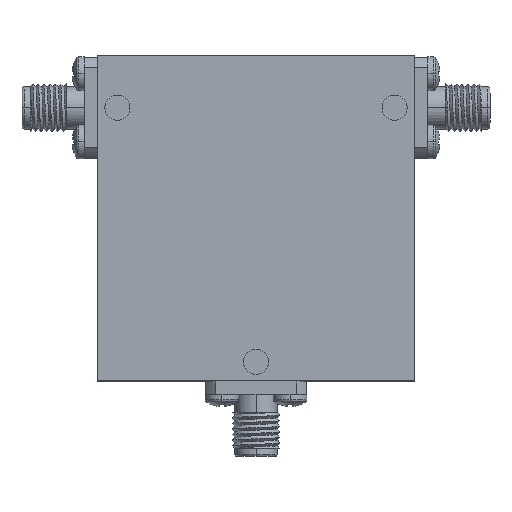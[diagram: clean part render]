
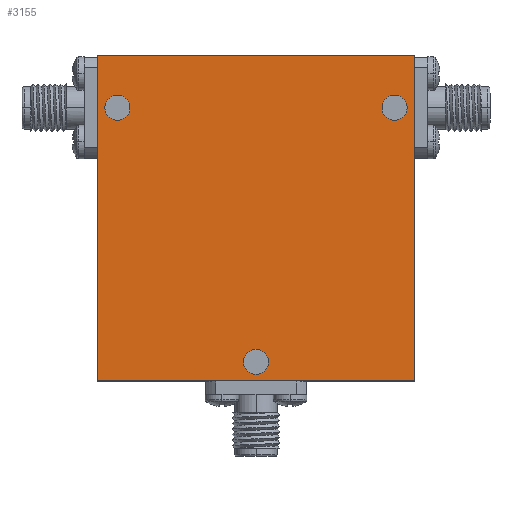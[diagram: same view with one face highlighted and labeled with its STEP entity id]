
A CAD part, top view. The second image highlights one B-rep face of the part: STEP entity #3155.
In plain terms, the highlighted planar face has unit normal (0, 0, 1) as drawn and (0, 0, -1) by its records, which use the part's own axes.
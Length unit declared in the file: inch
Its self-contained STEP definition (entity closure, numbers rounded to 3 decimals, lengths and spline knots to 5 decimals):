
#4 = AXIS2_PLACEMENT_3D ( 'NONE', #1968, #1391, #1098 ) ;
#27 = LINE ( 'NONE', #3624, #510 ) ;
#50 = DIRECTION ( 'NONE',  ( 1., 0., 0. ) ) ;
#116 = DIRECTION ( 'NONE',  ( 0., -1., 0. ) ) ;
#186 = CARTESIAN_POINT ( 'NONE',  ( 0., -0.715, -0.365 ) ) ;
#211 = ORIENTED_EDGE ( 'NONE', *, *, #2300, .T. ) ;
#251 = AXIS2_PLACEMENT_3D ( 'NONE', #2309, #2543, #783 ) ;
#253 = VERTEX_POINT ( 'NONE', #3535 ) ;
#289 = CARTESIAN_POINT ( 'NONE',  ( 0.6275, 0.55, -0.365 ) ) ;
#479 = CARTESIAN_POINT ( 'NONE',  ( -0.69, 0.55, -0.365 ) ) ;
#481 = EDGE_CURVE ( 'NONE', #1420, #3601, #788, .T. ) ;
#510 = VECTOR ( 'NONE', #1904, 39.37008 ) ;
#513 = EDGE_LOOP ( 'NONE', ( #2538, #211 ) ) ;
#561 = VERTEX_POINT ( 'NONE', #1796 ) ;
#693 = CARTESIAN_POINT ( 'NONE',  ( -0.0625, -0.715, -0.365 ) ) ;
#694 = CARTESIAN_POINT ( 'NONE',  ( 0.79, 0.81, -0.365 ) ) ;
#700 = EDGE_LOOP ( 'NONE', ( #1133, #2798 ) ) ;
#783 = DIRECTION ( 'NONE',  ( 1., 0., 0. ) ) ;
#788 = CIRCLE ( 'NONE', #1827, 0.0625 ) ;
#818 = EDGE_CURVE ( 'NONE', #1793, #1984, #2266, .T. ) ;
#830 = AXIS2_PLACEMENT_3D ( 'NONE', #479, #1917, #2784 ) ;
#876 = FACE_BOUND ( 'NONE', #700, .T. ) ;
#892 = VERTEX_POINT ( 'NONE', #2453 ) ;
#911 = EDGE_LOOP ( 'NONE', ( #3486, #3402, #2947, #1580 ) ) ;
#1098 = DIRECTION ( 'NONE',  ( 1., 0., 0. ) ) ;
#1133 = ORIENTED_EDGE ( 'NONE', *, *, #1271, .T. ) ;
#1184 = CARTESIAN_POINT ( 'NONE',  ( -0.79, 0.81, -0.365 ) ) ;
#1205 = VECTOR ( 'NONE', #3604, 39.37008 ) ;
#1271 = EDGE_CURVE ( 'NONE', #3601, #1420, #2504, .T. ) ;
#1386 = DIRECTION ( 'NONE',  ( 0., 0., 1. ) ) ;
#1391 = DIRECTION ( 'NONE',  ( 0., 0., 1. ) ) ;
#1418 = CARTESIAN_POINT ( 'NONE',  ( 0.69, 0.55, -0.365 ) ) ;
#1420 = VERTEX_POINT ( 'NONE', #289 ) ;
#1503 = DIRECTION ( 'NONE',  ( 0., 0., 1. ) ) ;
#1515 = VERTEX_POINT ( 'NONE', #693 ) ;
#1528 = VECTOR ( 'NONE', #50, 39.37008 ) ;
#1580 = ORIENTED_EDGE ( 'NONE', *, *, #2072, .F. ) ;
#1656 = DIRECTION ( 'NONE',  ( 1., 0., 0. ) ) ;
#1711 = DIRECTION ( 'NONE',  ( 0., 0., 1. ) ) ;
#1793 = VERTEX_POINT ( 'NONE', #1971 ) ;
#1796 = CARTESIAN_POINT ( 'NONE',  ( -0.79, 0.81, -0.365 ) ) ;
#1827 = AXIS2_PLACEMENT_3D ( 'NONE', #1418, #1711, #3475 ) ;
#1901 = LINE ( 'NONE', #1184, #1205 ) ;
#1904 = DIRECTION ( 'NONE',  ( 0., 1., 0. ) ) ;
#1917 = DIRECTION ( 'NONE',  ( 0., 0., 1. ) ) ;
#1947 = DIRECTION ( 'NONE',  ( 0., 0., 1. ) ) ;
#1968 = CARTESIAN_POINT ( 'NONE',  ( 0., 0., -0.365 ) ) ;
#1971 = CARTESIAN_POINT ( 'NONE',  ( -0.79, -0.81, -0.365 ) ) ;
#1984 = VERTEX_POINT ( 'NONE', #2978 ) ;
#2072 = EDGE_CURVE ( 'NONE', #2837, #561, #1901, .T. ) ;
#2195 = EDGE_CURVE ( 'NONE', #561, #1793, #3300, .T. ) ;
#2205 = FACE_OUTER_BOUND ( 'NONE', #911, .T. ) ;
#2213 = EDGE_LOOP ( 'NONE', ( #2642, #3690 ) ) ;
#2266 = LINE ( 'NONE', #2435, #1528 ) ;
#2300 = EDGE_CURVE ( 'NONE', #253, #892, #3576, .T. ) ;
#2309 = CARTESIAN_POINT ( 'NONE',  ( 0., -0.715, -0.365 ) ) ;
#2383 = FACE_BOUND ( 'NONE', #513, .T. ) ;
#2390 = CARTESIAN_POINT ( 'NONE',  ( 0.69, 0.55, -0.365 ) ) ;
#2416 = EDGE_CURVE ( 'NONE', #892, #253, #2712, .T. ) ;
#2435 = CARTESIAN_POINT ( 'NONE',  ( -0.79, -0.81, -0.365 ) ) ;
#2453 = CARTESIAN_POINT ( 'NONE',  ( -0.6275, 0.55, -0.365 ) ) ;
#2459 = CARTESIAN_POINT ( 'NONE',  ( 0.7525, 0.55, -0.365 ) ) ;
#2490 = CIRCLE ( 'NONE', #3186, 0.0625 ) ;
#2504 = CIRCLE ( 'NONE', #3759, 0.0625 ) ;
#2519 = EDGE_CURVE ( 'NONE', #3027, #1515, #2796, .T. ) ;
#2538 = ORIENTED_EDGE ( 'NONE', *, *, #2416, .T. ) ;
#2543 = DIRECTION ( 'NONE',  ( 0., 0., 1. ) ) ;
#2642 = ORIENTED_EDGE ( 'NONE', *, *, #2519, .T. ) ;
#2712 = CIRCLE ( 'NONE', #3445, 0.0625 ) ;
#2784 = DIRECTION ( 'NONE',  ( 1., 0., 0. ) ) ;
#2796 = CIRCLE ( 'NONE', #251, 0.0625 ) ;
#2798 = ORIENTED_EDGE ( 'NONE', *, *, #481, .T. ) ;
#2828 = DIRECTION ( 'NONE',  ( 1., 0., 0. ) ) ;
#2837 = VERTEX_POINT ( 'NONE', #694 ) ;
#2915 = DIRECTION ( 'NONE',  ( 1., 0., 0. ) ) ;
#2947 = ORIENTED_EDGE ( 'NONE', *, *, #2195, .F. ) ;
#2978 = CARTESIAN_POINT ( 'NONE',  ( 0.79, -0.81, -0.365 ) ) ;
#3027 = VERTEX_POINT ( 'NONE', #3036 ) ;
#3036 = CARTESIAN_POINT ( 'NONE',  ( 0.0625, -0.715, -0.365 ) ) ;
#3125 = EDGE_CURVE ( 'NONE', #1515, #3027, #2490, .T. ) ;
#3133 = CARTESIAN_POINT ( 'NONE',  ( -0.69, 0.55, -0.365 ) ) ;
#3150 = FACE_BOUND ( 'NONE', #2213, .T. ) ;
#3155 = ADVANCED_FACE ( 'NONE', ( #876, #3150, #2383, #2205 ), #3671, .F. ) ;
#3186 = AXIS2_PLACEMENT_3D ( 'NONE', #186, #1947, #1656 ) ;
#3300 = LINE ( 'NONE', #3629, #3622 ) ;
#3402 = ORIENTED_EDGE ( 'NONE', *, *, #818, .F. ) ;
#3445 = AXIS2_PLACEMENT_3D ( 'NONE', #3133, #1386, #2828 ) ;
#3475 = DIRECTION ( 'NONE',  ( 1., 0., 0. ) ) ;
#3486 = ORIENTED_EDGE ( 'NONE', *, *, #3648, .F. ) ;
#3535 = CARTESIAN_POINT ( 'NONE',  ( -0.7525, 0.55, -0.365 ) ) ;
#3576 = CIRCLE ( 'NONE', #830, 0.0625 ) ;
#3601 = VERTEX_POINT ( 'NONE', #2459 ) ;
#3604 = DIRECTION ( 'NONE',  ( -1., 0., 0. ) ) ;
#3622 = VECTOR ( 'NONE', #116, 39.37008 ) ;
#3624 = CARTESIAN_POINT ( 'NONE',  ( 0.79, 0.81, -0.365 ) ) ;
#3629 = CARTESIAN_POINT ( 'NONE',  ( -0.79, 0.81, -0.365 ) ) ;
#3648 = EDGE_CURVE ( 'NONE', #1984, #2837, #27, .T. ) ;
#3671 = PLANE ( 'NONE',  #4 ) ;
#3690 = ORIENTED_EDGE ( 'NONE', *, *, #3125, .T. ) ;
#3759 = AXIS2_PLACEMENT_3D ( 'NONE', #2390, #1503, #2915 ) ;
